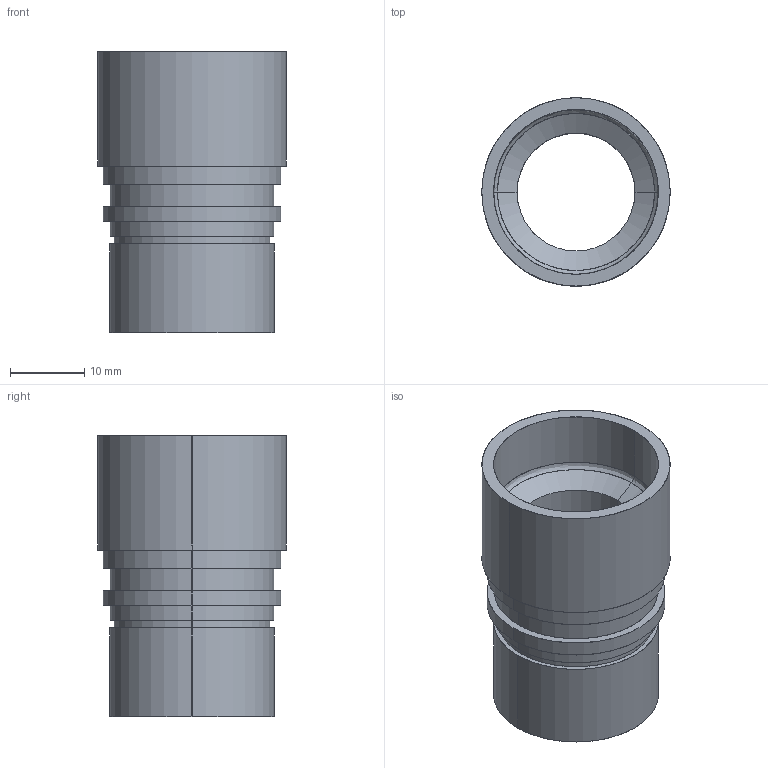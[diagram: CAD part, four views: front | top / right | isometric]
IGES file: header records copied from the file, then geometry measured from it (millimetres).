
Start section: SolidWorks IGES file using analytic representation for surfaces
Global section: file name: 19.05^70-仩R25.4-PH.IGS,; native system: SolidWorks 2012; preprocessor: SolidWorks 2012; author: harada; date: 130902.114253; units: millimetre
Bounding box: 25.4 x 25.4 x 38 mm (x, y, z)
Surface area: 5724.7 mm2 (no closed solid volume)
Topology: 0 solids, 0 shells, 33 faces, 672 edges, 672 vertices
Faces by surface type: revolution 22, bspline 11
